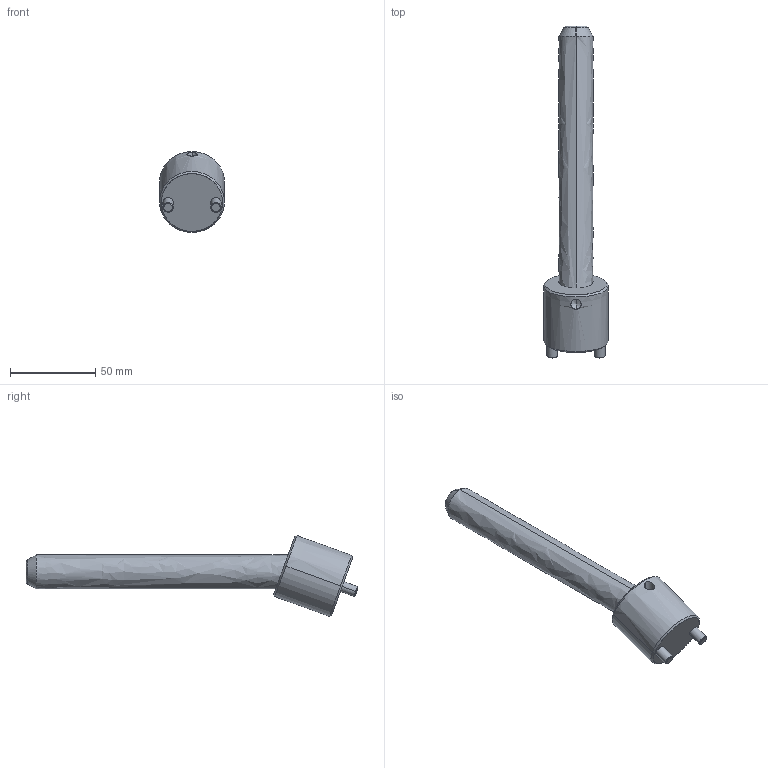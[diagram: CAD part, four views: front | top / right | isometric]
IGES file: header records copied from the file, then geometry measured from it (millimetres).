
Start section: START RECORD GO HERE.
Global section: file name: CI2020150.igs; native system: DASSAULT SYSTEMES CATIA V5 R20 - www.3ds.com; preprocessor: CATIA Version 5 Release 20 ; author: r.borello; organization: CFTORINO; date: 20190624.084252; units: millimetre
Bounding box: 38 x 194.51 x 47.34 mm (x, y, z)
Surface area: 20554.1 mm2 (no closed solid volume)
Topology: 0 solids, 0 shells, 39 faces, 162 edges, 160 vertices
Faces by surface type: revolution 32, plane 7
